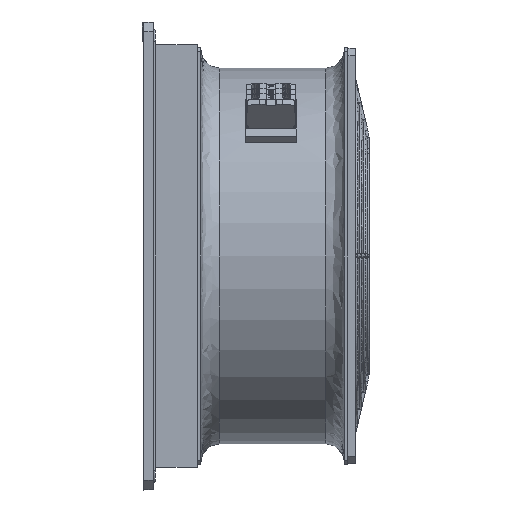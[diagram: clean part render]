
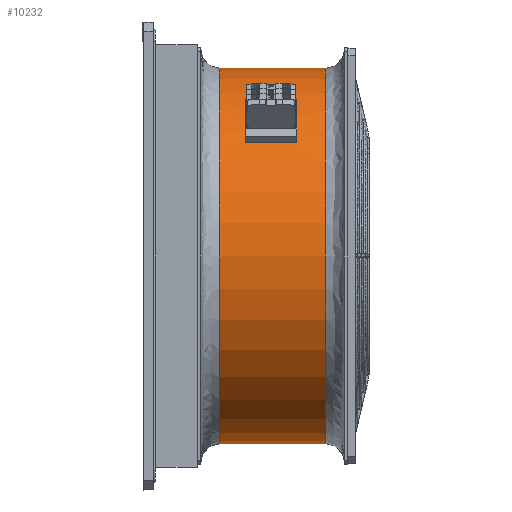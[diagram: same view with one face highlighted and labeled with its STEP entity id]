
A CAD part, left-side view. The second image highlights one B-rep face of the part: STEP entity #10232.
In plain terms, the highlighted cylindrical face has radius 128.5 mm (diameter 257 mm), a partial arc.
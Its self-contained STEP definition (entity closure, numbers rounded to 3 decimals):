
#10030 = EDGE_LOOP ( 'NONE', ( #10234, #10227, #10238, #10243 ) ) ;
#10034 = VERTEX_POINT ( 'NONE', #10746 ) ;
#10036 = EDGE_CURVE ( 'NONE', #10043, #10044, #10647, .T. ) ;
#10043 = VERTEX_POINT ( 'NONE', #10891 ) ;
#10044 = VERTEX_POINT ( 'NONE', #10890 ) ;
#10057 = VERTEX_POINT ( 'NONE', #11297 ) ;
#10058 = EDGE_CURVE ( 'NONE', #10057, #10043, #11275, .T. ) ;
#10080 = VERTEX_POINT ( 'NONE', #11259 ) ;
#10102 = EDGE_CURVE ( 'NONE', #10044, #10080, #10839, .T. ) ;
#10219 = ORIENTED_EDGE ( 'NONE', *, *, #10058, .T. ) ;
#10224 = VERTEX_POINT ( 'NONE', #11515 ) ;
#10227 = ORIENTED_EDGE ( 'NONE', *, *, #10235, .T. ) ;
#10229 = VERTEX_POINT ( 'NONE', #11604 ) ;
#10231 = EDGE_CURVE ( 'NONE', #10034, #10229, #11605, .T. ) ;
#10232 = ADVANCED_FACE ( 'NONE', ( #11628, #11569 ), #11606, .T. ) ;
#10233 = VERTEX_POINT ( 'NONE', #11539 ) ;
#10234 = ORIENTED_EDGE ( 'NONE', *, *, #10231, .T. ) ;
#10235 = EDGE_CURVE ( 'NONE', #10229, #10224, #11626, .T. ) ;
#10236 = EDGE_LOOP ( 'NONE', ( #10219, #10240, #10244, #10246 ) ) ;
#10238 = ORIENTED_EDGE ( 'NONE', *, *, #10239, .T. ) ;
#10239 = EDGE_CURVE ( 'NONE', #10224, #10233, #11538, .T. ) ;
#10240 = ORIENTED_EDGE ( 'NONE', *, *, #10036, .T. ) ;
#10241 = EDGE_CURVE ( 'NONE', #10233, #10034, #11549, .T. ) ;
#10243 = ORIENTED_EDGE ( 'NONE', *, *, #10241, .T. ) ;
#10244 = ORIENTED_EDGE ( 'NONE', *, *, #10102, .T. ) ;
#10245 = EDGE_CURVE ( 'NONE', #10057, #10080, #11552, .T. ) ;
#10246 = ORIENTED_EDGE ( 'NONE', *, *, #10245, .F. ) ;
#10646 = CARTESIAN_POINT ( 'NONE',  ( 0., 20.505, -128.5 ) ) ;
#10647 = LINE ( 'NONE', #10646, #10709 ) ;
#10708 = DIRECTION ( 'NONE',  ( 0., 1., 0. ) ) ;
#10709 = VECTOR ( 'NONE', #10708, 1000. ) ;
#10746 = CARTESIAN_POINT ( 'NONE',  ( 77.642, 68., 102.391 ) ) ;
#10809 = CARTESIAN_POINT ( 'NONE',  ( 0., 88., 0. ) ) ;
#10829 = AXIS2_PLACEMENT_3D ( 'NONE', #10809, #10831, #10830 ) ;
#10830 = DIRECTION ( 'NONE',  ( 0., 0., 1. ) ) ;
#10831 = DIRECTION ( 'NONE',  ( 0., -1., 0. ) ) ;
#10839 = CIRCLE ( 'NONE', #10829, 128.5 ) ;
#10890 = CARTESIAN_POINT ( 'NONE',  ( 0., 88., -128.5 ) ) ;
#10891 = CARTESIAN_POINT ( 'NONE',  ( 0., 15., -128.5 ) ) ;
#11259 = CARTESIAN_POINT ( 'NONE',  ( 0., 88., 128.5 ) ) ;
#11275 = CIRCLE ( 'NONE', #11288, 128.5 ) ;
#11288 = AXIS2_PLACEMENT_3D ( 'NONE', #11298, #11303, #11320 ) ;
#11297 = CARTESIAN_POINT ( 'NONE',  ( 0., 15., 128.5 ) ) ;
#11298 = CARTESIAN_POINT ( 'NONE',  ( 0., 15., 0. ) ) ;
#11303 = DIRECTION ( 'NONE',  ( 0., 1., 0. ) ) ;
#11320 = DIRECTION ( 'NONE',  ( 0., 0., 1. ) ) ;
#11515 = CARTESIAN_POINT ( 'NONE',  ( 102.391, 33., 77.642 ) ) ;
#11519 = AXIS2_PLACEMENT_3D ( 'NONE', #11568, #11564, #11563 ) ;
#11535 = DIRECTION ( 'NONE',  ( 0., -1., 0. ) ) ;
#11536 = VECTOR ( 'NONE', #11535, 1000. ) ;
#11537 = CARTESIAN_POINT ( 'NONE',  ( 102.391, 20.505, 77.642 ) ) ;
#11538 = CIRCLE ( 'NONE', #11561, 128.5 ) ;
#11539 = CARTESIAN_POINT ( 'NONE',  ( 77.642, 33., 102.391 ) ) ;
#11545 = DIRECTION ( 'NONE',  ( 0., 1., 0. ) ) ;
#11546 = VECTOR ( 'NONE', #11545, 1000. ) ;
#11547 = CARTESIAN_POINT ( 'NONE',  ( 77.642, 20.505, 102.391 ) ) ;
#11549 = LINE ( 'NONE', #11547, #11546 ) ;
#11551 = VECTOR ( 'NONE', #11565, 1000. ) ;
#11552 = LINE ( 'NONE', #11556, #11551 ) ;
#11553 = DIRECTION ( 'NONE',  ( 0., 0., 1. ) ) ;
#11554 = DIRECTION ( 'NONE',  ( 0., -1., 0. ) ) ;
#11555 = CARTESIAN_POINT ( 'NONE',  ( 0., 33., 0. ) ) ;
#11556 = CARTESIAN_POINT ( 'NONE',  ( 0., 20.505, 128.5 ) ) ;
#11560 = AXIS2_PLACEMENT_3D ( 'NONE', #11562, #11567, #11566 ) ;
#11561 = AXIS2_PLACEMENT_3D ( 'NONE', #11555, #11554, #11553 ) ;
#11562 = CARTESIAN_POINT ( 'NONE',  ( 0., 20.505, 0. ) ) ;
#11563 = DIRECTION ( 'NONE',  ( 0., 0., 1. ) ) ;
#11564 = DIRECTION ( 'NONE',  ( 0., 1., 0. ) ) ;
#11565 = DIRECTION ( 'NONE',  ( 0., 1., 0. ) ) ;
#11566 = DIRECTION ( 'NONE',  ( 0., 0., 1. ) ) ;
#11567 = DIRECTION ( 'NONE',  ( 0., 1., 0. ) ) ;
#11568 = CARTESIAN_POINT ( 'NONE',  ( 0., 68., 0. ) ) ;
#11569 = FACE_OUTER_BOUND ( 'NONE', #10236, .T. ) ;
#11604 = CARTESIAN_POINT ( 'NONE',  ( 102.391, 68., 77.642 ) ) ;
#11605 = CIRCLE ( 'NONE', #11519, 128.5 ) ;
#11606 = CYLINDRICAL_SURFACE ( 'NONE', #11560, 128.5 ) ;
#11626 = LINE ( 'NONE', #11537, #11536 ) ;
#11628 = FACE_BOUND ( 'NONE', #10030, .T. ) ;
